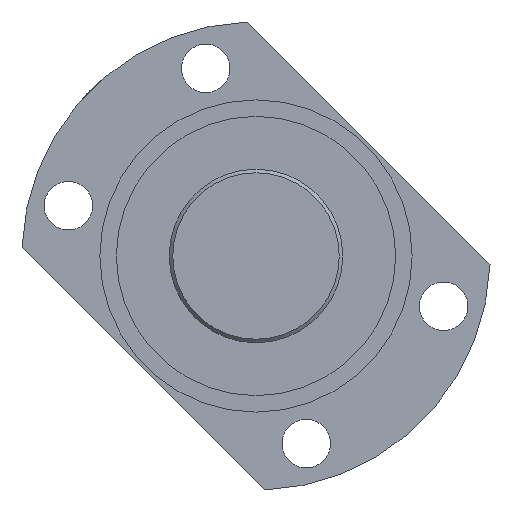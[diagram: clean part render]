
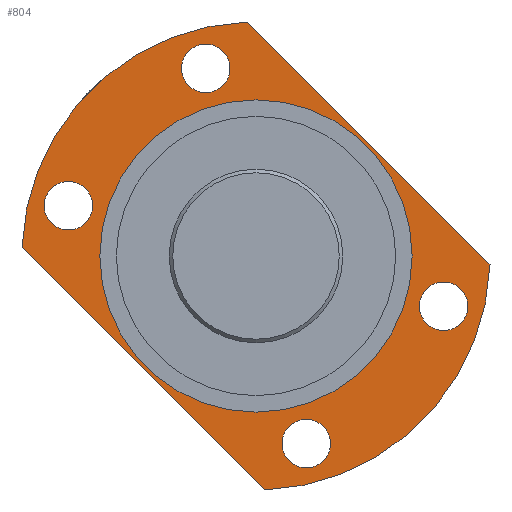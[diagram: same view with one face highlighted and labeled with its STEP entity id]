
A CAD part, left-side view. The second image highlights one B-rep face of the part: STEP entity #804.
In plain terms, the highlighted planar face has unit normal (-1, 0, 0).
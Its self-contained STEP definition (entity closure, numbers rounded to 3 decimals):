
#4 = ORIENTED_EDGE ( 'NONE', *, *, #32, .T. ) ;
#5 = ORIENTED_EDGE ( 'NONE', *, *, #1008, .T. ) ;
#32 = EDGE_CURVE ( 'NONE', #559, #356, #466, .T. ) ;
#124 = DIRECTION ( 'NONE',  ( 0., 1., 0. ) ) ;
#137 = CIRCLE ( 'NONE', #1136, 45. ) ;
#204 = FACE_OUTER_BOUND ( 'NONE', #454, .T. ) ;
#216 = DIRECTION ( 'NONE',  ( -1., 0., 0. ) ) ;
#223 = CARTESIAN_POINT ( 'NONE',  ( 2423.168, 1057.033, -9.544 ) ) ;
#225 = CARTESIAN_POINT ( 'NONE',  ( 2423.168, 1106.175, 0. ) ) ;
#226 = EDGE_CURVE ( 'NONE', #1292, #1292, #137, .T. ) ;
#237 = EDGE_LOOP ( 'NONE', ( #1143 ) ) ;
#274 = AXIS2_PLACEMENT_3D ( 'NONE', #950, #524, #1380 ) ;
#328 = CARTESIAN_POINT ( 'NONE',  ( 2423.168, 1106.175, 0. ) ) ;
#330 = EDGE_CURVE ( 'NONE', #1209, #1209, #1384, .T. ) ;
#350 = CIRCLE ( 'NONE', #764, 7. ) ;
#356 = VERTEX_POINT ( 'NONE', #1062 ) ;
#361 = DIRECTION ( 'NONE',  ( 0., -0.707, -0.707 ) ) ;
#366 = CARTESIAN_POINT ( 'NONE',  ( 2423.168, 1165.217, 19.444 ) ) ;
#424 = DIRECTION ( 'NONE',  ( 1., 0., 0. ) ) ;
#454 = EDGE_LOOP ( 'NONE', ( #4, #1069, #681, #1202 ) ) ;
#466 = LINE ( 'NONE', #1304, #809 ) ;
#492 = DIRECTION ( 'NONE',  ( 1., 0., 0. ) ) ;
#497 = CARTESIAN_POINT ( 'NONE',  ( 2423.168, 1091.682, -54.092 ) ) ;
#524 = DIRECTION ( 'NONE',  ( 1., 0., 0. ) ) ;
#545 = CIRCLE ( 'NONE', #620, 67.5 ) ;
#554 = EDGE_CURVE ( 'NONE', #1092, #1092, #1217, .T. ) ;
#559 = VERTEX_POINT ( 'NONE', #731 ) ;
#562 = FACE_BOUND ( 'NONE', #237, .T. ) ;
#569 = VERTEX_POINT ( 'NONE', #821 ) ;
#572 = PLANE ( 'NONE',  #896 ) ;
#586 = DIRECTION ( 'NONE',  ( 0., 0., 1. ) ) ;
#602 = CIRCLE ( 'NONE', #745, 7. ) ;
#611 = CARTESIAN_POINT ( 'NONE',  ( 2423.168, 1138.702, -32.527 ) ) ;
#620 = AXIS2_PLACEMENT_3D ( 'NONE', #225, #770, #1003 ) ;
#638 = VERTEX_POINT ( 'NONE', #737 ) ;
#673 = EDGE_LOOP ( 'NONE', ( #687 ) ) ;
#681 = ORIENTED_EDGE ( 'NONE', *, *, #946, .T. ) ;
#687 = ORIENTED_EDGE ( 'NONE', *, *, #226, .F. ) ;
#716 = DIRECTION ( 'NONE',  ( 0., 0.707, 0.707 ) ) ;
#731 = CARTESIAN_POINT ( 'NONE',  ( 2423.168, 1038.718, -2.403 ) ) ;
#737 = CARTESIAN_POINT ( 'NONE',  ( 2423.168, 1103.772, -67.457 ) ) ;
#745 = AXIS2_PLACEMENT_3D ( 'NONE', #497, #492, #1357 ) ;
#764 = AXIS2_PLACEMENT_3D ( 'NONE', #1071, #961, #1293 ) ;
#767 = CARTESIAN_POINT ( 'NONE',  ( 2423.168, 1125.619, 59.042 ) ) ;
#770 = DIRECTION ( 'NONE',  ( -1., 0., 0. ) ) ;
#800 = CARTESIAN_POINT ( 'NONE',  ( 2423.168, 1173.633, 2.403 ) ) ;
#804 = ADVANCED_FACE ( 'NONE', ( #880, #204, #869, #887, #562, #1407 ), #572, .T. ) ;
#809 = VECTOR ( 'NONE', #1102, 1000. ) ;
#813 = AXIS2_PLACEMENT_3D ( 'NONE', #906, #927, #716 ) ;
#821 = CARTESIAN_POINT ( 'NONE',  ( 2423.168, 1096.631, -49.142 ) ) ;
#822 = EDGE_CURVE ( 'NONE', #356, #982, #545, .T. ) ;
#869 = FACE_BOUND ( 'NONE', #1334, .T. ) ;
#873 = VECTOR ( 'NONE', #361, 1000. ) ;
#876 = EDGE_LOOP ( 'NONE', ( #5 ) ) ;
#880 = FACE_BOUND ( 'NONE', #673, .T. ) ;
#887 = FACE_BOUND ( 'NONE', #1212, .T. ) ;
#896 = AXIS2_PLACEMENT_3D ( 'NONE', #328, #216, #124 ) ;
#898 = CIRCLE ( 'NONE', #813, 67.5 ) ;
#906 = CARTESIAN_POINT ( 'NONE',  ( 2423.168, 1106.175, 0. ) ) ;
#927 = DIRECTION ( 'NONE',  ( -1., 0., 0. ) ) ;
#929 = DIRECTION ( 'NONE',  ( -1., 0., 0. ) ) ;
#946 = EDGE_CURVE ( 'NONE', #982, #638, #1338, .T. ) ;
#950 = CARTESIAN_POINT ( 'NONE',  ( 2423.168, 1052.084, -14.494 ) ) ;
#961 = DIRECTION ( 'NONE',  ( 1., 0., 0. ) ) ;
#982 = VERTEX_POINT ( 'NONE', #800 ) ;
#983 = CARTESIAN_POINT ( 'NONE',  ( 2423.168, 1106.175, 45. ) ) ;
#1003 = DIRECTION ( 'NONE',  ( 0., 0.707, 0.707 ) ) ;
#1008 = EDGE_CURVE ( 'NONE', #569, #569, #602, .T. ) ;
#1009 = VERTEX_POINT ( 'NONE', #366 ) ;
#1042 = EDGE_CURVE ( 'NONE', #638, #559, #898, .T. ) ;
#1060 = AXIS2_PLACEMENT_3D ( 'NONE', #1268, #424, #1086 ) ;
#1062 = CARTESIAN_POINT ( 'NONE',  ( 2423.168, 1108.579, 67.457 ) ) ;
#1069 = ORIENTED_EDGE ( 'NONE', *, *, #822, .T. ) ;
#1071 = CARTESIAN_POINT ( 'NONE',  ( 2423.168, 1160.267, 14.494 ) ) ;
#1086 = DIRECTION ( 'NONE',  ( 0., 0.707, 0.707 ) ) ;
#1092 = VERTEX_POINT ( 'NONE', #767 ) ;
#1093 = EDGE_CURVE ( 'NONE', #1009, #1009, #350, .T. ) ;
#1102 = DIRECTION ( 'NONE',  ( 0., 0.707, 0.707 ) ) ;
#1126 = ORIENTED_EDGE ( 'NONE', *, *, #554, .T. ) ;
#1136 = AXIS2_PLACEMENT_3D ( 'NONE', #1365, #929, #586 ) ;
#1143 = ORIENTED_EDGE ( 'NONE', *, *, #330, .T. ) ;
#1202 = ORIENTED_EDGE ( 'NONE', *, *, #1042, .T. ) ;
#1209 = VERTEX_POINT ( 'NONE', #223 ) ;
#1212 = EDGE_LOOP ( 'NONE', ( #1324 ) ) ;
#1217 = CIRCLE ( 'NONE', #1060, 7. ) ;
#1268 = CARTESIAN_POINT ( 'NONE',  ( 2423.168, 1120.669, 54.092 ) ) ;
#1292 = VERTEX_POINT ( 'NONE', #983 ) ;
#1293 = DIRECTION ( 'NONE',  ( 0., 0.707, 0.707 ) ) ;
#1304 = CARTESIAN_POINT ( 'NONE',  ( 2423.168, 1073.648, 32.527 ) ) ;
#1324 = ORIENTED_EDGE ( 'NONE', *, *, #1093, .T. ) ;
#1334 = EDGE_LOOP ( 'NONE', ( #1126 ) ) ;
#1338 = LINE ( 'NONE', #611, #873 ) ;
#1357 = DIRECTION ( 'NONE',  ( 0., 0.707, 0.707 ) ) ;
#1365 = CARTESIAN_POINT ( 'NONE',  ( 2423.168, 1106.175, 0. ) ) ;
#1380 = DIRECTION ( 'NONE',  ( 0., 0.707, 0.707 ) ) ;
#1384 = CIRCLE ( 'NONE', #274, 7. ) ;
#1407 = FACE_BOUND ( 'NONE', #876, .T. ) ;
